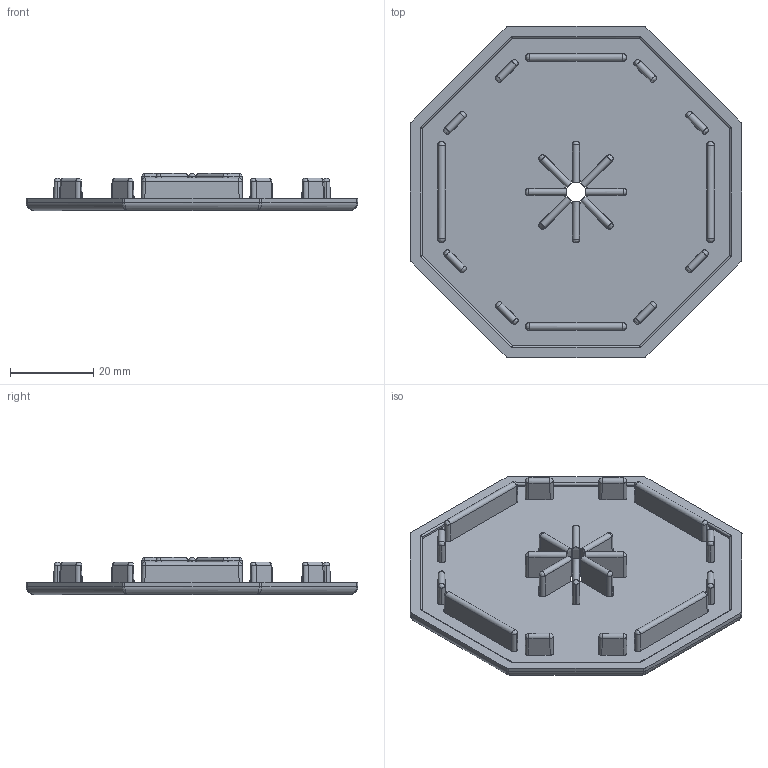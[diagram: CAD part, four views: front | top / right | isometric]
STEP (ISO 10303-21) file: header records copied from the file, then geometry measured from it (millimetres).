
FILE_DESCRIPTION(('CATIA V5 STEP Exchange'),'2;1');
FILE_NAME('\\192.168.2.253\vorns\技术部\03-技术资料\03-产品数模\02、抓具\STP\EGT258.stp','2017-10-18T02:29:12+00:00',('none'),('none'),'CATIA Version 5 Release 21 GA (IN-10)','CATIA V5 STEP AP203','none');
FILE_SCHEMA(('CONFIG_CONTROL_DESIGN'));
Length unit declared in the file: millimetre
Products named in the file (1): EGT258
Bounding box: 79.6 x 79.6 x 8.9 mm (x, y, z)
Surface area: 14036.8 mm2 (no closed solid volume)
Topology: 0 solids, 249 shells, 249 faces, 1216 edges, 1188 vertices
Faces by surface type: bspline 123, cylinder 100, revolution 26
Entity records: 15527 total; most frequent: CARTESIAN_POINT 8828, ORIENTED_EDGE 1180, EDGE_CURVE 1180, VERTEX_POINT 1180, B_SPLINE_CURVE_WITH_KNOTS 1131, DIRECTION 285, EDGE_LOOP 256, OPEN_SHELL 241
